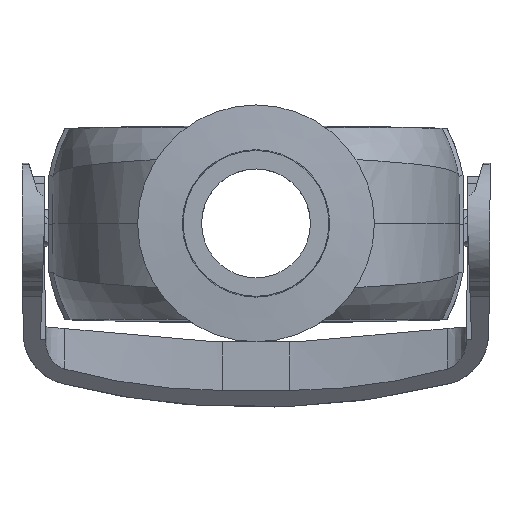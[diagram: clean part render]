
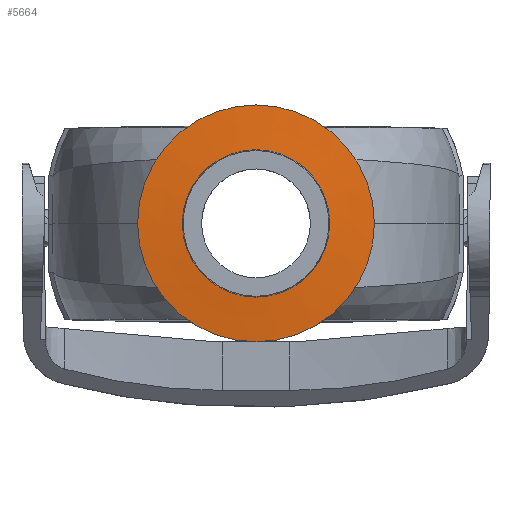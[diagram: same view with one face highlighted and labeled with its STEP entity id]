
A CAD part, top view. The second image highlights one B-rep face of the part: STEP entity #5664.
In plain terms, the highlighted conical face has half-angle 85 degrees and reference radius 27.25 mm.
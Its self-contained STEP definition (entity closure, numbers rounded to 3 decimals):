
#3073=CONICAL_SURFACE('',#13000,27.25,85.);
#3150=FACE_BOUND('',#6955,.T.);
#3151=FACE_BOUND('',#6956,.T.);
#5664=ADVANCED_FACE('',(#3150,#3151),#3073,.T.);
#6955=EDGE_LOOP('',(#9100));
#6956=EDGE_LOOP('',(#9101));
#9100=ORIENTED_EDGE('',*,*,#11547,.T.);
#9101=ORIENTED_EDGE('',*,*,#11548,.T.);
#10337=VERTEX_POINT('',#21058);
#10338=VERTEX_POINT('',#21060);
#11547=EDGE_CURVE('',#10337,#10337,#11946,.T.);
#11548=EDGE_CURVE('',#10338,#10338,#11947,.T.);
#11946=CIRCLE('',#12998,16.934);
#11947=CIRCLE('',#12999,27.2);
#12998=AXIS2_PLACEMENT_3D('',#21057,#14863,#14864);
#12999=AXIS2_PLACEMENT_3D('',#21059,#14865,#14866);
#13000=AXIS2_PLACEMENT_3D('',#21061,#14867,#14868);
#14863=DIRECTION('',(0.,0.,-1.));
#14864=DIRECTION('',(1.,0.,0.));
#14865=DIRECTION('',(0.,0.,1.));
#14866=DIRECTION('',(-1.,0.,0.));
#14867=DIRECTION('',(0.,0.,-1.));
#14868=DIRECTION('',(-1.,0.,0.));
#21057=CARTESIAN_POINT('',(0.,0.,98.103));
#21058=CARTESIAN_POINT('',(16.934,0.,98.103));
#21059=CARTESIAN_POINT('',(0.,0.,97.204));
#21060=CARTESIAN_POINT('',(-27.2,0.,97.204));
#21061=CARTESIAN_POINT('',(0.,0.,97.2));
